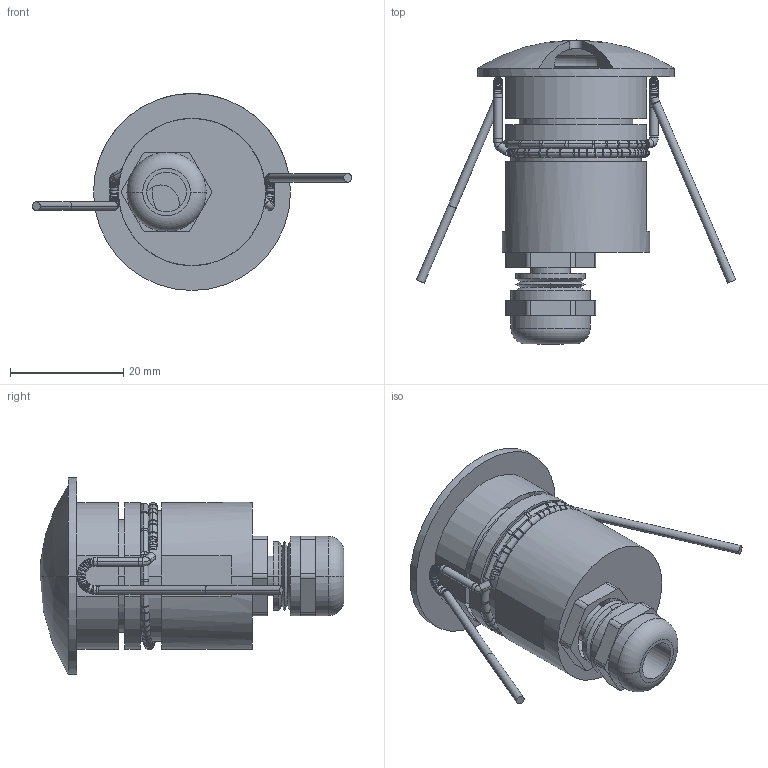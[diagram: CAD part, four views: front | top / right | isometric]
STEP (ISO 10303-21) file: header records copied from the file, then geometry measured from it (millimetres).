
FILE_DESCRIPTION((''),'2;1');
FILE_NAME('CNC35-TOP-S_SW0001','2025-07-30T16:43:34',('Piccioli'),(''),'CREO PARAMETRIC BY PTC INC, 2025010','CREO PARAMETRIC BY PTC INC, 2025010','');
FILE_SCHEMA(('CONFIG_CONTROL_DESIGN'));
Length unit declared in the file: millimetre
Products named in the file (1): CNC35-TOP-S_SW0001
Bounding box: 56.38 x 53.7 x 34.8 mm (x, y, z)
Surface area: 9615.4 mm2 (no closed solid volume)
Topology: 0 solids, 53 shells, 409 faces, 1146 edges, 712 vertices
Faces by surface type: cylinder 249, torus 82, plane 40, bspline 14, cone 12, sphere 12
Entity records: 13454 total; most frequent: CARTESIAN_POINT 2791, DIRECTION 2686, ORIENTED_EDGE 1776, AXIS2_PLACEMENT_3D 1170, EDGE_CURVE 1136, CIRCLE 775, VERTEX_POINT 712, EDGE_LOOP 422
